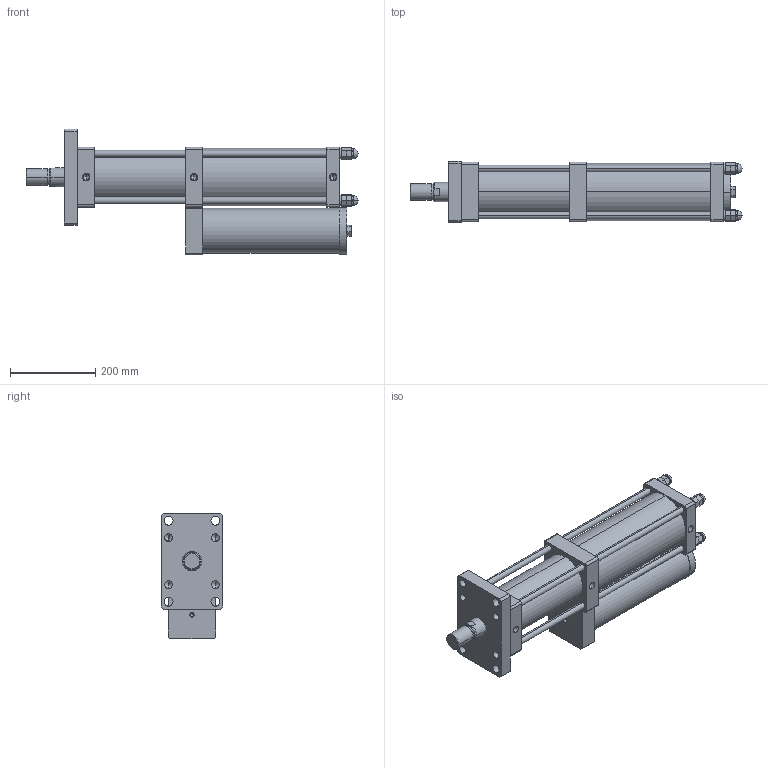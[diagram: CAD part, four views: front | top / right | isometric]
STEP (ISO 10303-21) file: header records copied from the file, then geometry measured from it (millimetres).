
FILE_DESCRIPTION (( 'STEP AP203' ), '1' );
FILE_NAME ('MPT-100-150-15-13T.STEP', '2016-03-28T10:20:35', ( 'WIN' ), ( '' ), 'SwSTEP 2.0', 'SolidWorks 2014', '' );
FILE_SCHEMA (( 'CONFIG_CONTROL_DESIGN' ));
Length unit declared in the file: millimetre
Products named in the file (1): MPT-100-150-15-13T
Bounding box: 779 x 145 x 294.5 mm (x, y, z)
Volume: 13457134.9 mm3; surface area: 811910.8 mm2
Topology: 13 solids, 13 shells, 400 faces, 980 edges, 555 vertices
Faces by surface type: plane 188, cylinder 80, torus 48, bspline 48, cone 36
Entity records: 12751 total; most frequent: CARTESIAN_POINT 3688, DIRECTION 1936, ORIENTED_EDGE 1812, EDGE_CURVE 906, AXIS2_PLACEMENT_3D 727, VERTEX_POINT 555, VECTOR 482, LINE 482
